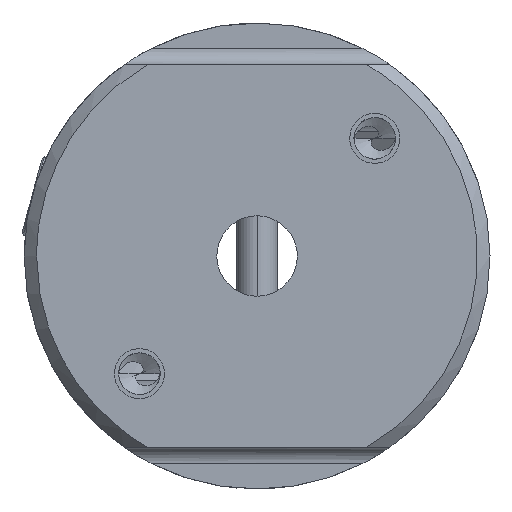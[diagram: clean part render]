
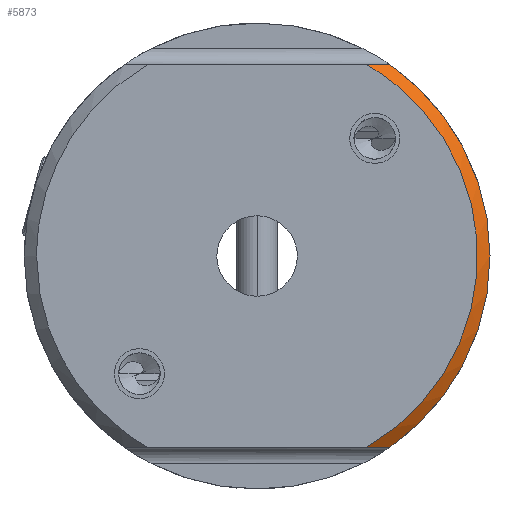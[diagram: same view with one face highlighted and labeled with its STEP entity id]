
A CAD part, left-side view. The second image highlights one B-rep face of the part: STEP entity #5873.
In plain terms, the highlighted conical face has half-angle 45 degrees and reference radius 26.5 mm.
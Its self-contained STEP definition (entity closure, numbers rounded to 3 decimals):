
#158 = CARTESIAN_POINT ( 'NONE',  ( -64.343, -35.447, -23. ) ) ;
#243 = CARTESIAN_POINT ( 'NONE',  ( -64.8, -34.527, 23. ) ) ;
#510 = CARTESIAN_POINT ( 'NONE',  ( -64.31, -35.494, 23. ) ) ;
#607 = CARTESIAN_POINT ( 'NONE',  ( -64.8, -38.403, -20.428 ) ) ;
#639 = CARTESIAN_POINT ( 'NONE',  ( -64.8, -43.124, 15.302 ) ) ;
#834 = CARTESIAN_POINT ( 'NONE',  ( -64.8, -34.527, -23. ) ) ;
#1171 = CARTESIAN_POINT ( 'NONE',  ( -64.8, -34.527, 23. ) ) ;
#1255 = AXIS2_PLACEMENT_3D ( 'NONE', #5831, #6441, #5183 ) ;
#1273 = ORIENTED_EDGE ( 'NONE', *, *, #4678, .F. ) ;
#1287 = CARTESIAN_POINT ( 'NONE',  ( -64.8, -38.403, 20.428 ) ) ;
#1778 = CARTESIAN_POINT ( 'NONE',  ( -63.433, -37.101, 23. ) ) ;
#1811 = CARTESIAN_POINT ( 'NONE',  ( -63.3, -37.333, -23. ) ) ;
#1890 = CARTESIAN_POINT ( 'NONE',  ( -64.8, -43.124, -15.302 ) ) ;
#1918 = CARTESIAN_POINT ( 'NONE',  ( -64.8, -34.527, 23. ) ) ;
#1968 = ORIENTED_EDGE ( 'NONE', *, *, #6533, .T. ) ;
#2152 = EDGE_CURVE ( 'NONE', #7673, #6869, #3019, .T. ) ;
#2205 = B_SPLINE_CURVE_WITH_KNOTS ( 'NONE', 3,
 ( #5229, #2711, #158, #4608 ),
 .UNSPECIFIED., .F., .F.,
 ( 4, 4 ),
 ( 0., 1. ),
 .UNSPECIFIED. ) ;
#2270 = CARTESIAN_POINT ( 'NONE',  ( -63.3, -21.364, 0. ) ) ;
#2420 = CARTESIAN_POINT ( 'NONE',  ( -63.626, -36.757, 23. ) ) ;
#2512 = B_SPLINE_CURVE_WITH_KNOTS ( 'NONE', 3,
 ( #4938, #1778, #2420, #6870, #3049, #7508, #3680, #8121, #4315, #510, #4969, #1171 ),
 .UNSPECIFIED., .F., .F.,
 ( 4, 1, 1, 1, 1, 2, 2, 4 ),
 ( 0., 0.25, 0.375, 0.438, 0.469, 0.484, 0.5, 1. ),
 .UNSPECIFIED. ) ;
#2537 = CARTESIAN_POINT ( 'NONE',  ( -64.8, -46.352, -9.124 ) ) ;
#2711 = CARTESIAN_POINT ( 'NONE',  ( -63.843, -36.381, -23. ) ) ;
#2907 = DIRECTION ( 'NONE',  ( 0., 0., 1. ) ) ;
#3019 = B_SPLINE_CURVE_WITH_KNOTS ( 'NONE', 3,
 ( #4400, #5057, #607, #5702, #1890, #6347, #2537, #6984, #3163, #7616, #3796, #8236, #4424, #639, #5088, #1287, #5734, #1918 ),
 .UNSPECIFIED., .F., .F.,
 ( 4, 2, 2, 2, 2, 2, 2, 2, 4 ),
 ( 0., 0.125, 0.25, 0.375, 0.5, 0.625, 0.75, 0.875, 1. ),
 .UNSPECIFIED. ) ;
#3049 = CARTESIAN_POINT ( 'NONE',  ( -63.947, -36.171, 23. ) ) ;
#3148 = CARTESIAN_POINT ( 'NONE',  ( -63.3, -37.333, 23. ) ) ;
#3163 = CARTESIAN_POINT ( 'NONE',  ( -64.8, -47.864, -2.321 ) ) ;
#3458 = CIRCLE ( 'NONE', #4414, 28. ) ;
#3680 = CARTESIAN_POINT ( 'NONE',  ( -64.021, -36.033, 23. ) ) ;
#3796 = CARTESIAN_POINT ( 'NONE',  ( -64.8, -47.558, 4.642 ) ) ;
#4315 = CARTESIAN_POINT ( 'NONE',  ( -64.042, -35.993, 23. ) ) ;
#4400 = CARTESIAN_POINT ( 'NONE',  ( -64.8, -34.527, -23. ) ) ;
#4414 = AXIS2_PLACEMENT_3D ( 'NONE', #2270, #6724, #2907 ) ;
#4424 = CARTESIAN_POINT ( 'NONE',  ( -64.8, -45.453, 11.286 ) ) ;
#4486 = VERTEX_POINT ( 'NONE', #3148 ) ;
#4608 = CARTESIAN_POINT ( 'NONE',  ( -64.8, -34.527, -23. ) ) ;
#4670 = ORIENTED_EDGE ( 'NONE', *, *, #6950, .F. ) ;
#4678 = EDGE_CURVE ( 'NONE', #6312, #4486, #3458, .T. ) ;
#4938 = CARTESIAN_POINT ( 'NONE',  ( -63.3, -37.333, 23. ) ) ;
#4969 = CARTESIAN_POINT ( 'NONE',  ( -64.56, -35.01, 23. ) ) ;
#5057 = CARTESIAN_POINT ( 'NONE',  ( -64.8, -36.541, -21.847 ) ) ;
#5088 = CARTESIAN_POINT ( 'NONE',  ( -64.8, -41.695, 17.155 ) ) ;
#5183 = DIRECTION ( 'NONE',  ( 0., 0., -1. ) ) ;
#5229 = CARTESIAN_POINT ( 'NONE',  ( -63.3, -37.333, -23. ) ) ;
#5345 = EDGE_LOOP ( 'NONE', ( #1273, #1968, #6515, #4670 ) ) ;
#5702 = CARTESIAN_POINT ( 'NONE',  ( -64.8, -41.695, -17.155 ) ) ;
#5734 = CARTESIAN_POINT ( 'NONE',  ( -64.8, -36.541, 21.847 ) ) ;
#5831 = CARTESIAN_POINT ( 'NONE',  ( -64.8, -21.364, 0. ) ) ;
#5873 = ADVANCED_FACE ( 'NONE', ( #7652 ), #7062, .F. ) ;
#6312 = VERTEX_POINT ( 'NONE', #1811 ) ;
#6347 = CARTESIAN_POINT ( 'NONE',  ( -64.8, -45.453, -11.286 ) ) ;
#6441 = DIRECTION ( 'NONE',  ( 1., 0., 0. ) ) ;
#6515 = ORIENTED_EDGE ( 'NONE', *, *, #2152, .T. ) ;
#6533 = EDGE_CURVE ( 'NONE', #6312, #7673, #2205, .T. ) ;
#6724 = DIRECTION ( 'NONE',  ( -1., 0., 0. ) ) ;
#6869 = VERTEX_POINT ( 'NONE', #243 ) ;
#6870 = CARTESIAN_POINT ( 'NONE',  ( -63.841, -36.365, 23. ) ) ;
#6950 = EDGE_CURVE ( 'NONE', #4486, #6869, #2512, .T. ) ;
#6984 = CARTESIAN_POINT ( 'NONE',  ( -64.8, -47.558, -4.642 ) ) ;
#7062 = CONICAL_SURFACE ( 'NONE', #1255, 26.5, 0.785 ) ;
#7508 = CARTESIAN_POINT ( 'NONE',  ( -63.999, -36.074, 23. ) ) ;
#7616 = CARTESIAN_POINT ( 'NONE',  ( -64.8, -47.864, 2.321 ) ) ;
#7652 = FACE_OUTER_BOUND ( 'NONE', #5345, .T. ) ;
#7673 = VERTEX_POINT ( 'NONE', #834 ) ;
#8121 = CARTESIAN_POINT ( 'NONE',  ( -64.036, -36.005, 23. ) ) ;
#8236 = CARTESIAN_POINT ( 'NONE',  ( -64.8, -46.352, 9.124 ) ) ;
